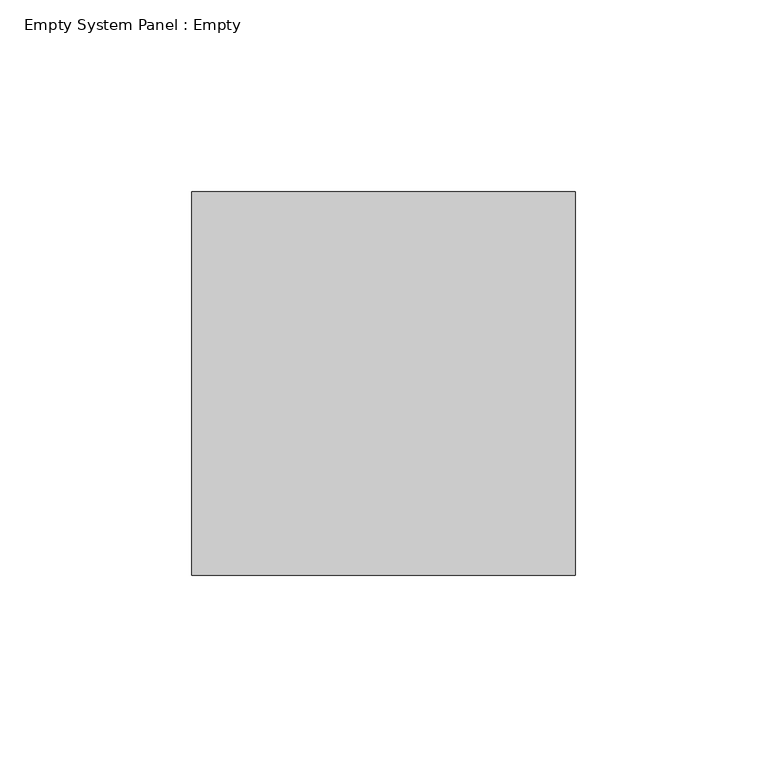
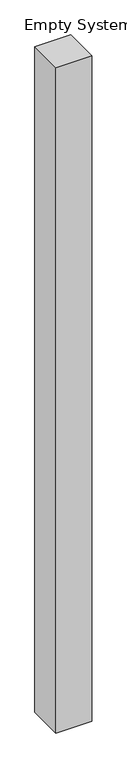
"""IFC4 building model written with IfcOpenShell, lengths in millimetres: plate geometry, Empty System Panel : Empty."""

from ifc_helpers import new_model, si_unit, origin, origin_with_axes, place, context, project, spatial, polyline, outline, extrude, source, transform, mapped, element, save


def empty_system_panel_empty_c50988b4(model_context):
    return source(origin(), model_context, "Body", "SweptSolid", [
        extrude(outline(polyline([(50.0, -50.0), (-50.0, -50.0), (-50.0, 50.0), (50.0, 50.0), (50.0, -50.0)])), origin_with_axes(), (0.0, 0.0, 1.0), 1950.0),
    ])


if __name__ == "__main__":
    model = new_model("IFC4")
    model_context = context("Model", 3, world=origin())
    ifc_project = project(units=[si_unit("LENGTHUNIT", "METRE", prefix="MILLI")], contexts=[model_context])
    site = spatial("IfcSite", under=ifc_project)
    building = spatial("IfcBuilding", under=site)
    placement = place(None, origin())
    empty_system_panel_empty_shape = empty_system_panel_empty_c50988b4(model_context)
    element("IfcPlate", 1, ObjectType="Empty System Panel : Empty", at=placement, inside=building, context=model_context, shape_type="MappedRepresentation", body=[
        mapped(empty_system_panel_empty_shape, transform((0.0, 0.0, 0.0), x_axis=(1.0, 0.0, 0.0), y_axis=(0.0, 1.0, 0.0), z_axis=(0.0, 0.0, 1.0))),
    ])
    save(model, "model.ifc")
